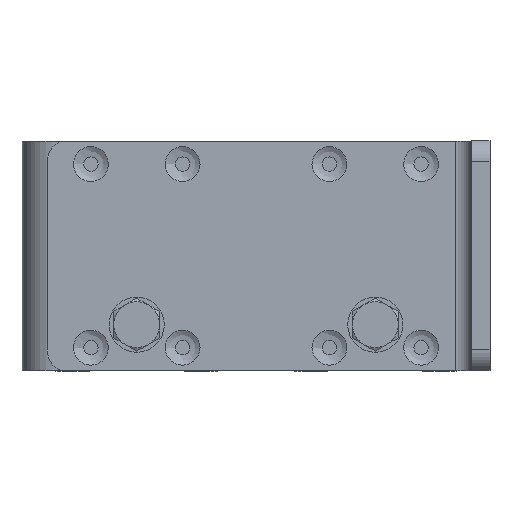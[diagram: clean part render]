
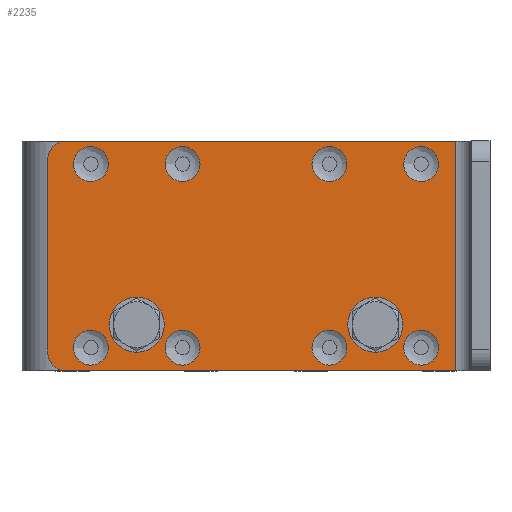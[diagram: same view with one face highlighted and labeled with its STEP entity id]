
A CAD part, top view. The second image highlights one B-rep face of the part: STEP entity #2235.
In plain terms, the highlighted planar face has unit normal (0, 0, 1).
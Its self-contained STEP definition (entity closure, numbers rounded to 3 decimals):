
#61=FACE_BOUND('',#737,.T.);
#62=FACE_BOUND('',#738,.T.);
#63=FACE_BOUND('',#739,.T.);
#64=FACE_BOUND('',#740,.T.);
#65=FACE_BOUND('',#741,.T.);
#66=FACE_BOUND('',#742,.T.);
#67=FACE_BOUND('',#743,.T.);
#68=FACE_BOUND('',#744,.T.);
#69=FACE_BOUND('',#745,.T.);
#70=FACE_BOUND('',#746,.T.);
#161=LINE('',#3928,#313);
#165=LINE('',#3935,#317);
#166=LINE('',#3940,#318);
#167=LINE('',#3943,#319);
#313=VECTOR('',#2773,50.);
#317=VECTOR('',#2779,86.179);
#318=VECTOR('',#2784,41.);
#319=VECTOR('',#2787,86.179);
#478=PLANE('',#2425);
#586=FACE_OUTER_BOUND('',#736,.T.);
#736=EDGE_LOOP('',(#1684,#1685,#1686,#1687,#1688,#1689));
#737=EDGE_LOOP('',(#1690,#1691));
#738=EDGE_LOOP('',(#1692,#1693));
#739=EDGE_LOOP('',(#1694,#1695));
#740=EDGE_LOOP('',(#1696,#1697));
#741=EDGE_LOOP('',(#1698,#1699));
#742=EDGE_LOOP('',(#1700,#1701));
#743=EDGE_LOOP('',(#1702,#1703));
#744=EDGE_LOOP('',(#1704,#1705));
#745=EDGE_LOOP('',(#1706));
#746=EDGE_LOOP('',(#1707));
#959=CIRCLE('',#2384,3.8);
#960=CIRCLE('',#2385,3.8);
#962=CIRCLE('',#2388,3.8);
#963=CIRCLE('',#2389,3.8);
#965=CIRCLE('',#2392,3.8);
#966=CIRCLE('',#2393,3.8);
#968=CIRCLE('',#2396,3.8);
#969=CIRCLE('',#2397,3.8);
#971=CIRCLE('',#2400,3.8);
#972=CIRCLE('',#2401,3.8);
#974=CIRCLE('',#2404,3.8);
#975=CIRCLE('',#2405,3.8);
#977=CIRCLE('',#2408,3.8);
#978=CIRCLE('',#2409,3.8);
#980=CIRCLE('',#2412,3.8);
#981=CIRCLE('',#2413,3.8);
#987=CIRCLE('',#2426,5.);
#988=CIRCLE('',#2427,5.);
#989=CIRCLE('',#2428,6.);
#990=CIRCLE('',#2429,6.);
#1086=VERTEX_POINT('',#3637);
#1087=VERTEX_POINT('',#3638);
#1089=VERTEX_POINT('',#3674);
#1090=VERTEX_POINT('',#3675);
#1092=VERTEX_POINT('',#3711);
#1093=VERTEX_POINT('',#3712);
#1095=VERTEX_POINT('',#3748);
#1096=VERTEX_POINT('',#3749);
#1098=VERTEX_POINT('',#3785);
#1099=VERTEX_POINT('',#3786);
#1101=VERTEX_POINT('',#3822);
#1102=VERTEX_POINT('',#3823);
#1104=VERTEX_POINT('',#3859);
#1105=VERTEX_POINT('',#3860);
#1107=VERTEX_POINT('',#3896);
#1108=VERTEX_POINT('',#3897);
#1113=VERTEX_POINT('',#3912);
#1116=VERTEX_POINT('',#3919);
#1119=VERTEX_POINT('',#3933);
#1120=VERTEX_POINT('',#3937);
#1121=VERTEX_POINT('',#3939);
#1122=VERTEX_POINT('',#3941);
#1123=VERTEX_POINT('',#3944);
#1124=VERTEX_POINT('',#3946);
#1293=EDGE_CURVE('',#1086,#1087,#959,.T.);
#1294=EDGE_CURVE('',#1087,#1086,#960,.T.);
#1297=EDGE_CURVE('',#1089,#1090,#962,.T.);
#1298=EDGE_CURVE('',#1090,#1089,#963,.T.);
#1301=EDGE_CURVE('',#1092,#1093,#965,.T.);
#1302=EDGE_CURVE('',#1093,#1092,#966,.T.);
#1305=EDGE_CURVE('',#1095,#1096,#968,.T.);
#1306=EDGE_CURVE('',#1096,#1095,#969,.T.);
#1309=EDGE_CURVE('',#1098,#1099,#971,.T.);
#1310=EDGE_CURVE('',#1099,#1098,#972,.T.);
#1313=EDGE_CURVE('',#1101,#1102,#974,.T.);
#1314=EDGE_CURVE('',#1102,#1101,#975,.T.);
#1317=EDGE_CURVE('',#1104,#1105,#977,.T.);
#1318=EDGE_CURVE('',#1105,#1104,#978,.T.);
#1321=EDGE_CURVE('',#1107,#1108,#980,.T.);
#1322=EDGE_CURVE('',#1108,#1107,#981,.T.);
#1335=EDGE_CURVE('',#1113,#1116,#161,.T.);
#1339=EDGE_CURVE('',#1116,#1119,#165,.T.);
#1340=EDGE_CURVE('',#1119,#1120,#987,.T.);
#1341=EDGE_CURVE('',#1120,#1121,#166,.T.);
#1342=EDGE_CURVE('',#1121,#1122,#988,.T.);
#1343=EDGE_CURVE('',#1122,#1113,#167,.T.);
#1344=EDGE_CURVE('',#1123,#1123,#989,.T.);
#1345=EDGE_CURVE('',#1124,#1124,#990,.T.);
#1684=ORIENTED_EDGE('',*,*,#1335,.T.);
#1685=ORIENTED_EDGE('',*,*,#1339,.T.);
#1686=ORIENTED_EDGE('',*,*,#1340,.T.);
#1687=ORIENTED_EDGE('',*,*,#1341,.T.);
#1688=ORIENTED_EDGE('',*,*,#1342,.T.);
#1689=ORIENTED_EDGE('',*,*,#1343,.T.);
#1690=ORIENTED_EDGE('',*,*,#1297,.T.);
#1691=ORIENTED_EDGE('',*,*,#1298,.T.);
#1692=ORIENTED_EDGE('',*,*,#1293,.T.);
#1693=ORIENTED_EDGE('',*,*,#1294,.T.);
#1694=ORIENTED_EDGE('',*,*,#1301,.T.);
#1695=ORIENTED_EDGE('',*,*,#1302,.T.);
#1696=ORIENTED_EDGE('',*,*,#1305,.T.);
#1697=ORIENTED_EDGE('',*,*,#1306,.T.);
#1698=ORIENTED_EDGE('',*,*,#1313,.T.);
#1699=ORIENTED_EDGE('',*,*,#1314,.T.);
#1700=ORIENTED_EDGE('',*,*,#1309,.T.);
#1701=ORIENTED_EDGE('',*,*,#1310,.T.);
#1702=ORIENTED_EDGE('',*,*,#1317,.T.);
#1703=ORIENTED_EDGE('',*,*,#1318,.T.);
#1704=ORIENTED_EDGE('',*,*,#1321,.T.);
#1705=ORIENTED_EDGE('',*,*,#1322,.T.);
#1706=ORIENTED_EDGE('',*,*,#1344,.T.);
#1707=ORIENTED_EDGE('',*,*,#1345,.T.);
#2235=ADVANCED_FACE('',(#586,#61,#62,#63,#64,#65,#66,#67,#68,#69,#70),#478,
 .T.);
#2384=AXIS2_PLACEMENT_3D('',#3639,#2687,#2688);
#2385=AXIS2_PLACEMENT_3D('',#3640,#2689,#2690);
#2388=AXIS2_PLACEMENT_3D('',#3676,#2695,#2696);
#2389=AXIS2_PLACEMENT_3D('',#3677,#2697,#2698);
#2392=AXIS2_PLACEMENT_3D('',#3713,#2703,#2704);
#2393=AXIS2_PLACEMENT_3D('',#3714,#2705,#2706);
#2396=AXIS2_PLACEMENT_3D('',#3750,#2711,#2712);
#2397=AXIS2_PLACEMENT_3D('',#3751,#2713,#2714);
#2400=AXIS2_PLACEMENT_3D('',#3787,#2719,#2720);
#2401=AXIS2_PLACEMENT_3D('',#3788,#2721,#2722);
#2404=AXIS2_PLACEMENT_3D('',#3824,#2727,#2728);
#2405=AXIS2_PLACEMENT_3D('',#3825,#2729,#2730);
#2408=AXIS2_PLACEMENT_3D('',#3861,#2735,#2736);
#2409=AXIS2_PLACEMENT_3D('',#3862,#2737,#2738);
#2412=AXIS2_PLACEMENT_3D('',#3898,#2743,#2744);
#2413=AXIS2_PLACEMENT_3D('',#3899,#2745,#2746);
#2425=AXIS2_PLACEMENT_3D('',#3936,#2780,#2781);
#2426=AXIS2_PLACEMENT_3D('',#3938,#2782,#2783);
#2427=AXIS2_PLACEMENT_3D('',#3942,#2785,#2786);
#2428=AXIS2_PLACEMENT_3D('',#3945,#2788,#2789);
#2429=AXIS2_PLACEMENT_3D('',#3947,#2790,#2791);
#2687=DIRECTION('center_axis',(0.,0.,-1.));
#2688=DIRECTION('ref_axis',(-1.,0.,0.));
#2689=DIRECTION('center_axis',(0.,0.,-1.));
#2690=DIRECTION('ref_axis',(-1.,0.,0.));
#2695=DIRECTION('center_axis',(0.,0.,-1.));
#2696=DIRECTION('ref_axis',(-1.,0.,0.));
#2697=DIRECTION('center_axis',(0.,0.,-1.));
#2698=DIRECTION('ref_axis',(-1.,0.,0.));
#2703=DIRECTION('center_axis',(0.,0.,-1.));
#2704=DIRECTION('ref_axis',(-1.,0.,0.));
#2705=DIRECTION('center_axis',(0.,0.,-1.));
#2706=DIRECTION('ref_axis',(-1.,0.,0.));
#2711=DIRECTION('center_axis',(0.,0.,-1.));
#2712=DIRECTION('ref_axis',(-1.,0.,0.));
#2713=DIRECTION('center_axis',(0.,0.,-1.));
#2714=DIRECTION('ref_axis',(-1.,0.,0.));
#2719=DIRECTION('center_axis',(0.,0.,-1.));
#2720=DIRECTION('ref_axis',(-1.,0.,0.));
#2721=DIRECTION('center_axis',(0.,0.,-1.));
#2722=DIRECTION('ref_axis',(-1.,0.,0.));
#2727=DIRECTION('center_axis',(0.,0.,-1.));
#2728=DIRECTION('ref_axis',(-1.,0.,0.));
#2729=DIRECTION('center_axis',(0.,0.,-1.));
#2730=DIRECTION('ref_axis',(-1.,0.,0.));
#2735=DIRECTION('center_axis',(0.,0.,-1.));
#2736=DIRECTION('ref_axis',(-1.,0.,0.));
#2737=DIRECTION('center_axis',(0.,0.,-1.));
#2738=DIRECTION('ref_axis',(-1.,0.,0.));
#2743=DIRECTION('center_axis',(0.,0.,-1.));
#2744=DIRECTION('ref_axis',(-1.,0.,0.));
#2745=DIRECTION('center_axis',(0.,0.,-1.));
#2746=DIRECTION('ref_axis',(-1.,0.,0.));
#2773=DIRECTION('',(0.,1.,0.));
#2779=DIRECTION('',(-1.,0.,0.));
#2780=DIRECTION('center_axis',(0.,0.,1.));
#2781=DIRECTION('ref_axis',(1.,0.,0.));
#2782=DIRECTION('center_axis',(0.,0.,1.));
#2783=DIRECTION('ref_axis',(-0.436,0.9,0.));
#2784=DIRECTION('',(0.,-1.,0.));
#2785=DIRECTION('center_axis',(0.,0.,1.));
#2786=DIRECTION('ref_axis',(-1.,0.,0.));
#2787=DIRECTION('',(1.,0.,0.));
#2788=DIRECTION('center_axis',(0.,0.,-1.));
#2789=DIRECTION('ref_axis',(-1.,0.,0.));
#2790=DIRECTION('center_axis',(0.,0.,-1.));
#2791=DIRECTION('ref_axis',(-1.,0.,0.));
#3637=CARTESIAN_POINT('',(-42.7,-20.,0.));
#3638=CARTESIAN_POINT('',(-50.3,-20.,0.));
#3639=CARTESIAN_POINT('Origin',(-46.5,-20.,0.));
#3640=CARTESIAN_POINT('Origin',(-46.5,-20.,0.));
#3674=CARTESIAN_POINT('',(-22.7,-20.,0.));
#3675=CARTESIAN_POINT('',(-30.3,-20.,0.));
#3676=CARTESIAN_POINT('Origin',(-26.5,-20.,0.));
#3677=CARTESIAN_POINT('Origin',(-26.5,-20.,0.));
#3711=CARTESIAN_POINT('',(-22.7,20.,0.));
#3712=CARTESIAN_POINT('',(-30.3,20.,0.));
#3713=CARTESIAN_POINT('Origin',(-26.5,20.,0.));
#3714=CARTESIAN_POINT('Origin',(-26.5,20.,0.));
#3748=CARTESIAN_POINT('',(-42.7,20.,0.));
#3749=CARTESIAN_POINT('',(-50.3,20.,0.));
#3750=CARTESIAN_POINT('Origin',(-46.5,20.,0.));
#3751=CARTESIAN_POINT('Origin',(-46.5,20.,0.));
#3785=CARTESIAN_POINT('',(-94.7,-20.,0.));
#3786=CARTESIAN_POINT('',(-102.3,-20.,0.));
#3787=CARTESIAN_POINT('Origin',(-98.5,-20.,0.));
#3788=CARTESIAN_POINT('Origin',(-98.5,-20.,0.));
#3822=CARTESIAN_POINT('',(-74.7,-20.,0.));
#3823=CARTESIAN_POINT('',(-82.3,-20.,0.));
#3824=CARTESIAN_POINT('Origin',(-78.5,-20.,0.));
#3825=CARTESIAN_POINT('Origin',(-78.5,-20.,0.));
#3859=CARTESIAN_POINT('',(-74.7,20.,0.));
#3860=CARTESIAN_POINT('',(-82.3,20.,0.));
#3861=CARTESIAN_POINT('Origin',(-78.5,20.,0.));
#3862=CARTESIAN_POINT('Origin',(-78.5,20.,0.));
#3896=CARTESIAN_POINT('',(-94.7,20.,0.));
#3897=CARTESIAN_POINT('',(-102.3,20.,0.));
#3898=CARTESIAN_POINT('Origin',(-98.5,20.,0.));
#3899=CARTESIAN_POINT('Origin',(-98.5,20.,0.));
#3912=CARTESIAN_POINT('',(-19.,-25.,0.));
#3919=CARTESIAN_POINT('',(-19.,25.,0.));
#3928=CARTESIAN_POINT('',(-19.,12.5,0.));
#3933=CARTESIAN_POINT('',(-105.179,25.,0.));
#3935=CARTESIAN_POINT('',(11.179,25.,0.));
#3936=CARTESIAN_POINT('Origin',(-47.,0.,0.));
#3937=CARTESIAN_POINT('',(-108.,20.5,0.));
#3938=CARTESIAN_POINT('Origin',(-103.,20.5,0.));
#3939=CARTESIAN_POINT('',(-108.,-20.5,0.));
#3940=CARTESIAN_POINT('',(-108.,20.5,0.));
#3941=CARTESIAN_POINT('',(-105.179,-25.,0.));
#3942=CARTESIAN_POINT('Origin',(-103.,-20.5,0.));
#3943=CARTESIAN_POINT('',(-105.179,-25.,0.));
#3944=CARTESIAN_POINT('',(-30.5,-15.,0.));
#3945=CARTESIAN_POINT('Origin',(-36.5,-15.,0.));
#3946=CARTESIAN_POINT('',(-82.5,-15.,0.));
#3947=CARTESIAN_POINT('Origin',(-88.5,-15.,0.));
